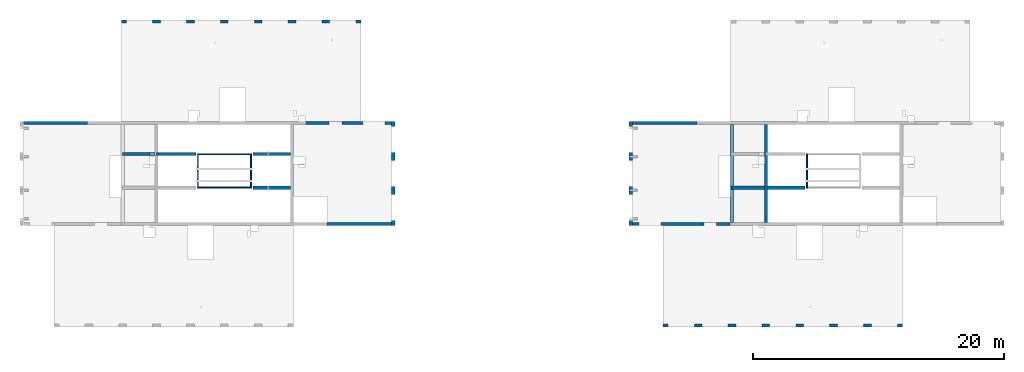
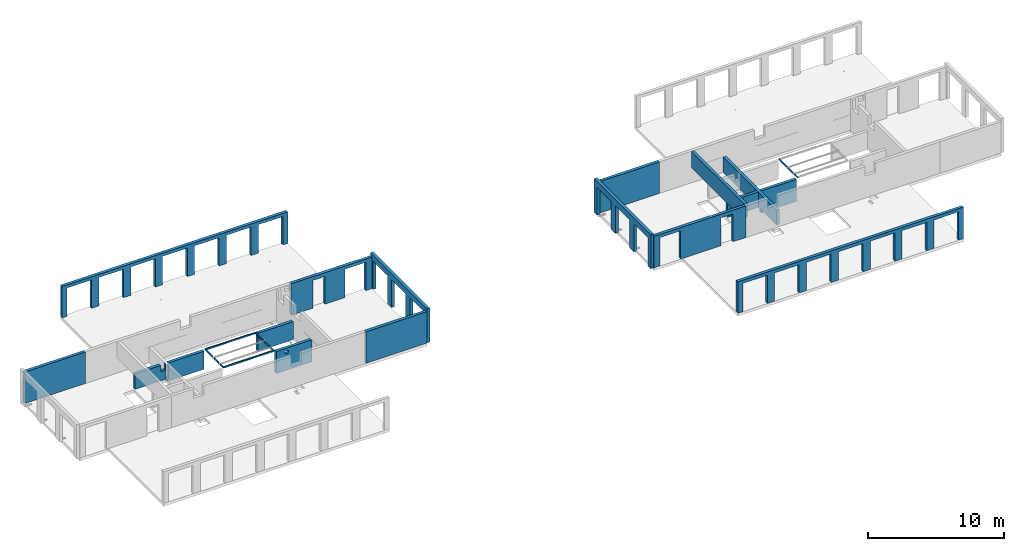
# One storey, part 4 of 6: 21 walls, 42 openings.
"""IFC2X3 building model written with IfcOpenShell, lengths in millimetres."""

from ifc_helpers import new_model, entity, si_unit, converted_unit, derived_unit, direction, frame, frame_2d, origin, origin_2d_with_axis, place, context, subcontext, project, spatial, polyline, rectangle, circle, extrude, clip, halfspace, bounded_halfspace, material, layer, layer_set, layer_usage, type_object, element, save


model = new_model("IFC2X3")

# Units and contexts
model_context = context("Model", 3, precision=0.01, world=origin(), true_north=direction((6.12303176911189e-17, 1.0)))
body_context = subcontext(model_context, "Body", "Model", "MODEL_VIEW")
ifc_project = project(units=[si_unit("LENGTHUNIT", "METRE", prefix="MILLI"), si_unit("AREAUNIT", "SQUARE_METRE"), si_unit("VOLUMEUNIT", "CUBIC_METRE"), converted_unit("PLANEANGLEUNIT", "DEGREE", entity("IfcRatioMeasure", 0.0174532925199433), si_unit("PLANEANGLEUNIT", "RADIAN"), dimensions=[0, 0, 0, 0, 0, 0, 0]), si_unit("MASSUNIT", "GRAM", prefix="KILO"), derived_unit("MASSDENSITYUNIT", [(si_unit("MASSUNIT", "GRAM", prefix="KILO"), 1), (si_unit("LENGTHUNIT", "METRE"), -3)]), si_unit("TIMEUNIT", "SECOND"), si_unit("FREQUENCYUNIT", "HERTZ"), si_unit("THERMODYNAMICTEMPERATUREUNIT", "DEGREE_CELSIUS"), derived_unit("THERMALTRANSMITTANCEUNIT", [(si_unit("MASSUNIT", "GRAM", prefix="KILO"), 1), (si_unit("THERMODYNAMICTEMPERATUREUNIT", "KELVIN"), -1), (si_unit("TIMEUNIT", "SECOND"), -3)]), derived_unit("VOLUMETRICFLOWRATEUNIT", [(si_unit("LENGTHUNIT", "METRE"), 3), (si_unit("TIMEUNIT", "SECOND"), -1)]), si_unit("ELECTRICCURRENTUNIT", "AMPERE"), si_unit("ELECTRICVOLTAGEUNIT", "VOLT"), si_unit("POWERUNIT", "WATT"), si_unit("FORCEUNIT", "NEWTON", prefix="KILO"), si_unit("ILLUMINANCEUNIT", "LUX"), si_unit("LUMINOUSFLUXUNIT", "LUMEN"), si_unit("LUMINOUSINTENSITYUNIT", "CANDELA"), derived_unit("USERDEFINED", [(si_unit("MASSUNIT", "GRAM", prefix="KILO"), -1), (si_unit("LENGTHUNIT", "METRE"), -2), (si_unit("TIMEUNIT", "SECOND"), 3), (si_unit("LUMINOUSFLUXUNIT", "LUMEN"), 1)]), derived_unit("LINEARVELOCITYUNIT", [(si_unit("LENGTHUNIT", "METRE"), 1), (si_unit("TIMEUNIT", "SECOND"), -1)]), si_unit("PRESSUREUNIT", "PASCAL"), derived_unit("USERDEFINED", [(si_unit("LENGTHUNIT", "METRE"), -2), (si_unit("MASSUNIT", "GRAM", prefix="KILO"), 1), (si_unit("TIMEUNIT", "SECOND"), -2)])], contexts=[model_context])

# Site, building, storey
site_placement = place(None, origin())
site = spatial("IfcSite", under=ifc_project, at=site_placement, Name="Default", CompositionType="ELEMENT")
building_placement = place(site_placement, origin())
building = spatial("IfcBuilding", under=site, at=building_placement, Name="niet gebruiken", CompositionType="ELEMENT")
storey_placement = place(building_placement, frame((0.0, 0.0, 66160.0)))
storey = spatial("IfcBuildingStorey", under=building, at=storey_placement, Name="22 tweeëntwintigste verdieping", CompositionType="ELEMENT", Elevation=66160.0)

# Wall, openings
ifc_material_1 = material(Name="NLRS_f2_beton ihwg")
ifc_layer_1 = layer(ifc_material_1, 250.0)
ifc_layer_set_1 = layer_set([ifc_layer_1], Name="Basic Wall:NLRS_22.21_WA_beton ihwg d=250_gen")
ifc_layer_usage_1 = layer_usage(ifc_layer_set_1, "AXIS2", "NEGATIVE", 125.0)
wall_type_1 = type_object("IfcWallType", Name="Basic Wall:NLRS_22.21_WA_beton ihwg d=250_gen", PredefinedType="STANDARD", material=ifc_layer_set_1)
wall_1_placement = place(storey_placement, frame((75770.0, 45031.0, -90.0)))
wall_1 = element("IfcWallStandardCase", 1, at=wall_1_placement, inside=storey, type_object=wall_type_1, material=ifc_layer_usage_1, Name="Basic Wall:NLRS_22.21_WA_beton ihwg d=250_gen", ObjectType="Basic Wall:NLRS_22.21_WA_beton ihwg d=250_gen", context=body_context, shape_type="SweptSolid", body=[
    extrude(rectangle(XDim=5130.0, YDim=249.999999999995, at=frame_2d((2565.0, 0.0), x_axis=(-1.0, 0.0))), origin(), (0.0, 0.0, 1.0), 2820.0),
])
opening_1_placement = place(wall_1_placement, origin())
element("IfcOpeningElement", 2, at=opening_1_placement, cuts=wall_1, Name="Basic Wall:NLRS_22.21_WA_beton ihwg d=250_gen", ObjectType="Opening", context=body_context, shape_type="SweptSolid", body=[
    extrude(rectangle(XDim=849.999999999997, YDim=900.000000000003, at=origin_2d_with_axis()), frame((13615.0, -125.0, 2395.0), z_axis=(0.0, 1.0, 0.0), x_axis=(0.0, 0.0, -1.0)), (0.0, 0.0, 1.0), 249.999999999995),
])
opening_2_placement = place(wall_1_placement, origin())
element("IfcOpeningElement", 3, at=opening_2_placement, cuts=wall_1, Name="Basic Wall:NLRS_22.21_WA_beton ihwg d=250_gen", ObjectType="Opening", context=body_context, shape_type="SweptSolid", body=[
    extrude(rectangle(XDim=400.000000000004, YDim=450.000000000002, at=frame_2d((-8.66862137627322e-12, 0.0), x_axis=(1.0, 0.0))), frame((22205.0, -125.0, 2520.0), z_axis=(0.0, 1.0, 0.0), x_axis=(0.0, 0.0, -1.0)), (0.0, 0.0, 1.0), 249.999999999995),
])

# Wall
ifc_layer_usage_2 = layer_usage(ifc_layer_set_1, "AXIS2", "NEGATIVE", 125.0)
wall_2_placement = place(storey_placement, frame((86400.0, 44906.0, -90.0), z_axis=(0.0, 0.0, 1.0), x_axis=(0.0, -1.0, 0.0)))
element("IfcWallStandardCase", 4, at=wall_2_placement, inside=storey, type_object=wall_type_1, material=ifc_layer_usage_2, Name="Basic Wall:NLRS_22.21_WA_beton ihwg d=250_gen", ObjectType="Basic Wall:NLRS_22.21_WA_beton ihwg d=250_gen", context=body_context, shape_type="SweptSolid", body=[
    extrude(rectangle(XDim=7799.99999999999, YDim=250.000000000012, at=frame_2d((3900.0, 0.0), x_axis=(-1.0, 0.0))), origin(), (0.0, 0.0, 1.0), 1370.0),
])

# Wall, openings
ifc_layer_usage_3 = layer_usage(ifc_layer_set_1, "AXIS2", "NEGATIVE", 125.0)
wall_3_placement = place(storey_placement, frame((75770.0, 36981.0, -90.0)))
wall_3 = element("IfcWallStandardCase", 5, at=wall_3_placement, inside=storey, type_object=wall_type_1, material=ifc_layer_usage_3, Name="Basic Wall:NLRS_22.21_WA_beton ihwg d=250_gen", ObjectType="Basic Wall:NLRS_22.21_WA_beton ihwg d=250_gen", context=body_context, shape_type="SweptSolid", body=[
    extrude(rectangle(XDim=7780.0, YDim=250.000000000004, at=frame_2d((3890.0, 0.0), x_axis=(-1.0, 0.0))), origin(), (0.0, 0.0, 1.0), 2820.0),
])
opening_3_placement = place(wall_3_placement, origin())
element("IfcOpeningElement", 6, at=opening_3_placement, cuts=wall_3, Name="Basic Wall:NLRS_22.21_WA_beton ihwg d=250_gen", ObjectType="Opening", context=body_context, shape_type="SweptSolid", body=[
    extrude(rectangle(XDim=2540.0, YDim=1765.0, at=frame_2d((-4.32009983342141e-12, 0.0), x_axis=(1.0, 0.0))), frame((1382.50000000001, -1649.0, 1270.0), z_axis=(0.0, 1.0, 0.0), x_axis=(0.0, 0.0, 1.0)), (0.0, 0.0, 1.0), 3048.0),
])
opening_4_placement = place(wall_3_placement, origin())
element("IfcOpeningElement", 7, at=opening_4_placement, cuts=wall_3, Name="Basic Wall:NLRS_22.21_WA_beton ihwg d=250_gen", ObjectType="Opening", context=body_context, shape_type="SweptSolid", body=[
    extrude(rectangle(XDim=2492.00000000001, YDim=1021.99999999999, at=frame_2d((8.75388650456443e-12, 8.66862137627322e-12), x_axis=(1.0, 0.0))), frame((6190.0, -1649.0, 1246.0), z_axis=(0.0, 1.0, 0.0), x_axis=(0.0, 0.0, 1.0)), (0.0, 0.0, 1.0), 3048.0),
])
opening_5_placement = place(wall_3_placement, origin())
element("IfcOpeningElement", 8, at=opening_5_placement, cuts=wall_3, Name="Basic Wall:NLRS_22.21_WA_beton ihwg d=250_gen", ObjectType="Opening", context=body_context, shape_type="SweptSolid", body=[
    extrude(rectangle(XDim=849.999999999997, YDim=900.000000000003, at=frame_2d((-8.66862137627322e-12, 0.0), x_axis=(1.0, 0.0))), frame((18310.0, -125.0, 2395.0), z_axis=(0.0, 1.0, 0.0), x_axis=(0.0, 0.0, -1.0)), (0.0, 0.0, 1.0), 250.000000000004),
])
opening_6_placement = place(wall_3_placement, origin())
element("IfcOpeningElement", 9, at=opening_6_placement, cuts=wall_3, Name="Basic Wall:NLRS_22.21_WA_beton ihwg d=250_gen", ObjectType="Opening", context=body_context, shape_type="SweptSolid", body=[
    extrude(rectangle(XDim=849.999999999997, YDim=900.000000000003, at=frame_2d((-8.66862137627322e-12, 0.0), x_axis=(1.0, 0.0))), frame((10055.0, -125.0, 2395.0), z_axis=(0.0, 1.0, 0.0), x_axis=(0.0, 0.0, -1.0)), (0.0, 0.0, 1.0), 250.000000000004),
])

# Wall
ifc_layer_usage_4 = layer_usage(ifc_layer_set_1, "AXIS2", "NEGATIVE", 125.0)
wall_4_placement = place(storey_placement, frame((83700.0, 44906.0, 1280.0), z_axis=(0.0, 0.0, 1.0), x_axis=(0.0, -1.0, 0.0)))
element("IfcWallStandardCase", 10, at=wall_4_placement, inside=storey, type_object=wall_type_1, material=ifc_layer_usage_4, Name="Basic Wall:NLRS_22.21_WA_beton ihwg d=250_gen", ObjectType="Basic Wall:NLRS_22.21_WA_beton ihwg d=250_gen", context=body_context, shape_type="Clipping", body=[
    clip(clip(extrude(rectangle(XDim=7799.99999999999, YDim=250.000000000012, at=frame_2d((3899.99999999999, 0.0), x_axis=(-1.0, 0.0))), origin(), (0.0, 0.0, 1.0), 1450.0), bounded_halfspace(frame((7800.0, 0.0, 250.0), z_axis=(0.0, 0.0, 1.0), x_axis=(0.0, 1.0, 0.0)), True, frame((7800.0, 0.0, 250.0), z_axis=(0.0, 0.0, 1.0), x_axis=(0.0, 1.0, 0.0)), polyline([(0.0, 0.0), (125.0, 0.0), (125.0, 7800.0), (0.0, 7800.0), (0.0, 0.0)]))), bounded_halfspace(frame((0.0, 0.0, 250.0), z_axis=(0.0, -1.0, 0.0), x_axis=(0.0, 0.0, 1.0)), True, frame((0.0, 0.0, 250.0), z_axis=(0.0, -1.0, 0.0), x_axis=(0.0, 0.0, 1.0)), polyline([(0.0, 0.0), (-250.0, 0.0), (-250.0, -7800.0), (0.0, -7800.0), (0.0, 0.0)]))),
])

# Wall, openings
ifc_layer_usage_5 = layer_usage(ifc_layer_set_1, "AXIS2", "NEGATIVE", 125.0)
wall_5_placement = place(storey_placement, frame((27170.0, 45031.0, -90.0)))
wall_5 = element("IfcWallStandardCase", 11, at=wall_5_placement, inside=storey, type_object=wall_type_1, material=ifc_layer_usage_5, Name="Basic Wall:NLRS_22.21_WA_beton ihwg d=250_gen", ObjectType="Basic Wall:NLRS_22.21_WA_beton ihwg d=250_gen", context=body_context, shape_type="SweptSolid", body=[
    extrude(rectangle(XDim=5130.0, YDim=249.999999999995, at=frame_2d((2565.0, 0.0), x_axis=(-1.0, 0.0))), origin(), (0.0, 0.0, 1.0), 2820.0),
])
opening_7_placement = place(wall_5_placement, origin())
element("IfcOpeningElement", 12, at=opening_7_placement, cuts=wall_5, Name="Basic Wall:NLRS_22.21_WA_beton ihwg d=250_gen", ObjectType="Opening", context=body_context, shape_type="SweptSolid", body=[
    extrude(rectangle(XDim=849.999999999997, YDim=900.000000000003, at=origin_2d_with_axis()), frame((13615.0, -125.0, 2395.0), z_axis=(0.0, 1.0, 0.0), x_axis=(0.0, 0.0, -1.0)), (0.0, 0.0, 1.0), 249.999999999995),
])
opening_8_placement = place(wall_5_placement, origin())
element("IfcOpeningElement", 13, at=opening_8_placement, cuts=wall_5, Name="Basic Wall:NLRS_22.21_WA_beton ihwg d=250_gen", ObjectType="Opening", context=body_context, shape_type="SweptSolid", body=[
    extrude(rectangle(XDim=400.000000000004, YDim=450.000000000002, at=frame_2d((-8.66862137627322e-12, 0.0), x_axis=(1.0, 0.0))), frame((22205.0, -125.0, 2520.0), z_axis=(0.0, 1.0, 0.0), x_axis=(0.0, 0.0, -1.0)), (0.0, 0.0, 1.0), 249.999999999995),
])

# Wall, opening
ifc_layer_usage_6 = layer_usage(ifc_layer_set_1, "AXIS2", "NEGATIVE", 125.0)
wall_6_placement = place(storey_placement, frame((48475.0, 39871.0, -690.0), z_axis=(0.0, 0.0, 1.0), x_axis=(-1.0, 0.0, 0.0)))
wall_6 = element("IfcWallStandardCase", 14, at=wall_6_placement, inside=storey, type_object=wall_type_1, material=ifc_layer_usage_6, Name="Basic Wall:NLRS_22.21_WA_beton ihwg d=250_gen", ObjectType="Basic Wall:NLRS_22.21_WA_beton ihwg d=250_gen", context=body_context, shape_type="SweptSolid", body=[
    extrude(rectangle(XDim=3000.0, YDim=249.999999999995, at=frame_2d((1500.0, -1.4210854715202e-13), x_axis=(-1.0, 0.0))), origin(), (0.0, 0.0, 1.0), 1969.99999999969),
])
opening_9_placement = place(wall_6_placement, origin())
element("IfcOpeningElement", 15, at=opening_9_placement, cuts=wall_6, Name="Basic Wall:NLRS_22.21_WA_beton ihwg d=250_gen", ObjectType="Opening", context=body_context, shape_type="SweptSolid", body=[
    extrude(circle(Radius=157.5, at=origin_2d_with_axis()), frame((2114.9997298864, -125.0, 1620.0), z_axis=(0.0, 1.0, 0.0), x_axis=(-1.0, 0.0, 0.0)), (0.0, 0.0, 1.0), 250.000000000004),
])

# Wall
ifc_layer_usage_7 = layer_usage(ifc_layer_set_1, "AXIS2", "NEGATIVE", 125.0)
wall_7_placement = place(storey_placement, frame((48475.0, 42571.0, -340.0), z_axis=(0.0, 0.0, 1.0), x_axis=(-1.0, 0.0, 0.0)))
element("IfcWallStandardCase", 16, at=wall_7_placement, inside=storey, type_object=wall_type_1, material=ifc_layer_usage_7, Name="Basic Wall:NLRS_22.21_WA_beton ihwg d=250_gen", ObjectType="Basic Wall:NLRS_22.21_WA_beton ihwg d=250_gen", context=body_context, shape_type="Clipping", body=[
    clip(extrude(rectangle(XDim=3000.0, YDim=249.999999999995, at=frame_2d((1500.0, -3.48165940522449e-13), x_axis=(-1.0, 0.0))), origin(), (0.0, 0.0, 1.0), 1620.00000000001), halfspace(frame((0.0, -125.0, 1620.0), z_axis=(0.0, 0.0, 1.0), x_axis=(0.0, 1.0, 0.0)), False)),
])

# Wall, openings
ifc_layer_usage_8 = layer_usage(ifc_layer_set_1, "AXIS2", "NEGATIVE", 125.0)
wall_8_placement = place(storey_placement, frame((40925.0, 42571.0, -340.0), z_axis=(0.0, 0.0, 1.0), x_axis=(-1.0, 0.0, 0.0)))
wall_8 = element("IfcWallStandardCase", 17, at=wall_8_placement, inside=storey, type_object=wall_type_1, material=ifc_layer_usage_8, Name="Basic Wall:NLRS_22.21_WA_beton ihwg d=250_gen", ObjectType="Basic Wall:NLRS_22.21_WA_beton ihwg d=250_gen", context=body_context, shape_type="SweptSolid", body=[
    extrude(rectangle(XDim=5849.99999999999, YDim=249.999999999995, at=frame_2d((2924.99999999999, 0.0), x_axis=(-1.0, 0.0))), origin(), (0.0, 0.0, 1.0), 1620.00000000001),
])
opening_10_placement = place(storey_placement, frame((40925.0, 42571.0, -340.0), z_axis=(0.0, 0.0, 1.0), x_axis=(-1.0, 0.0, 0.0)))
element("IfcOpeningElement", 18, at=opening_10_placement, cuts=wall_8, Name="Basic Wall:NLRS_22.21_WA_beton ihwg d=250_gen:1", ObjectType="Opening", context=body_context, shape_type="SweptSolid", body=[
    extrude(rectangle(XDim=1370.0, YDim=250.000000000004, at=frame_2d((0.0, 4.33431068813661e-12), x_axis=(1.0, 0.0))), frame((3250.0, 0.0, 935.0), z_axis=(-1.0, 0.0, 0.0), x_axis=(0.0, 0.0, 1.0)), (0.0, 0.0, 1.0), 249.999999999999),
])
opening_11_placement = place(wall_8_placement, origin())
element("IfcOpeningElement", 19, at=opening_11_placement, cuts=wall_8, Name="Basic Wall:NLRS_22.21_WA_beton ihwg d=250_gen", ObjectType="Opening", context=body_context, shape_type="SweptSolid", body=[
    extrude(rectangle(XDim=549.999999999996, YDim=400.0, at=origin_2d_with_axis()), frame((3475.0, -125.0, 1345.0), z_axis=(0.0, 1.0, 0.0), x_axis=(0.0, 0.0, -1.0)), (0.0, 0.0, 1.0), 249.999999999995),
])
opening_12_placement = place(wall_8_placement, origin())
element("IfcOpeningElement", 20, at=opening_12_placement, cuts=wall_8, Name="Basic Wall:NLRS_22.21_WA_beton ihwg d=250_gen", ObjectType="Opening", context=body_context, shape_type="SweptSolid", body=[
    extrude(rectangle(XDim=250.000000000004, YDim=2725.0, at=frame_2d((0.0, 4.33431068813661e-12), x_axis=(0.0, 1.0))), frame((4487.49999999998, 125.0, 125.0), z_axis=(0.0, -1.0, 0.0), x_axis=(1.0, 0.0, 0.0)), (0.0, 0.0, 1.0), 250.0),
])

# Wall
ifc_layer_usage_9 = layer_usage(ifc_layer_set_1, "AXIS2", "NEGATIVE", 125.0)
wall_9_placement = place(storey_placement, frame((89525.0, 39871.0, -690.0), z_axis=(0.0, 0.0, 1.0), x_axis=(-1.0, 0.0, 0.0)))
element("IfcWallStandardCase", 21, at=wall_9_placement, inside=storey, type_object=wall_type_1, material=ifc_layer_usage_9, Name="Basic Wall:NLRS_22.21_WA_beton ihwg d=250_gen", ObjectType="Basic Wall:NLRS_22.21_WA_beton ihwg d=250_gen", context=body_context, shape_type="SweptSolid", body=[
    extrude(rectangle(XDim=2999.99999999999, YDim=249.999999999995, at=frame_2d((1500.0, 0.0), x_axis=(-1.0, 0.0))), origin(), (0.0, 0.0, 1.0), 1969.99999999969),
])

# Wall, openings
ifc_layer_usage_10 = layer_usage(ifc_layer_set_1, "AXIS2", "NEGATIVE", 125.0)
wall_10_placement = place(storey_placement, frame((49725.0, 45031.0, -90.0)))
wall_10 = element("IfcWallStandardCase", 22, at=wall_10_placement, inside=storey, type_object=wall_type_1, material=ifc_layer_usage_10, Name="Basic Wall:NLRS_22.21_WA_beton ihwg d=250_gen", ObjectType="Basic Wall:NLRS_22.21_WA_beton ihwg d=250_gen", context=body_context, shape_type="SweptSolid", body=[
    extrude(rectangle(XDim=6824.99999999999, YDim=249.999999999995, at=frame_2d((3412.5, 0.0), x_axis=(-1.0, 0.0))), origin(), (0.0, 0.0, 1.0), 2820.0),
])
opening_13_placement = place(wall_10_placement, origin())
element("IfcOpeningElement", 23, at=opening_13_placement, cuts=wall_10, Name="Basic Wall:NLRS_22.21_WA_beton ihwg d=250_gen", ObjectType="Opening", context=body_context, shape_type="SweptSolid", body=[
    extrude(rectangle(XDim=2540.0, YDim=1765.0, at=frame_2d((-4.32009983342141e-12, 0.0), x_axis=(1.0, 0.0))), frame((5422.50000000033, -1649.0, 1270.0), z_axis=(0.0, 1.0, 0.0), x_axis=(0.0, 0.0, 1.0)), (0.0, 0.0, 1.0), 3048.0),
])
opening_14_placement = place(wall_10_placement, origin())
element("IfcOpeningElement", 24, at=opening_14_placement, cuts=wall_10, Name="Basic Wall:NLRS_22.21_WA_beton ihwg d=250_gen", ObjectType="Opening", context=body_context, shape_type="SweptSolid", body=[
    extrude(rectangle(XDim=2492.00000000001, YDim=1022.0, at=frame_2d((8.75388650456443e-12, 4.32009983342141e-12), x_axis=(1.0, 0.0))), frame((2335.0, -1649.0, 1246.0), z_axis=(0.0, 1.0, 0.0), x_axis=(0.0, 0.0, 1.0)), (0.0, 0.0, 1.0), 3048.0),
])

# Walls
ifc_layer_usage_11 = layer_usage(ifc_layer_set_1, "AXIS2", "NEGATIVE", 125.0)
wall_11_placement = place(storey_placement, frame((51400.0, 36981.0, -90.0)))
element("IfcWallStandardCase", 25, at=wall_11_placement, inside=storey, type_object=wall_type_1, material=ifc_layer_usage_11, Name="Basic Wall:NLRS_22.21_WA_beton ihwg d=250_gen", ObjectType="Basic Wall:NLRS_22.21_WA_beton ihwg d=250_gen", context=body_context, shape_type="SweptSolid", body=[
    extrude(rectangle(XDim=5150.0, YDim=250.000000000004, at=frame_2d((2575.0, 0.0), x_axis=(-1.0, 0.0))), origin(), (0.0, 0.0, 1.0), 2820.0),
])
ifc_layer_usage_12 = layer_usage(ifc_layer_set_1, "AXIS2", "NEGATIVE", 125.0)
wall_12_placement = place(storey_placement, frame((86275.0, 39871.0, -90.0), z_axis=(0.0, 0.0, 1.0), x_axis=(-1.0, 0.0, 0.0)))
element("IfcWallStandardCase", 26, at=wall_12_placement, inside=storey, type_object=wall_type_1, material=ifc_layer_usage_12, Name="Basic Wall:NLRS_22.21_WA_beton ihwg d=250_gen", ObjectType="Basic Wall:NLRS_22.21_WA_beton ihwg d=250_gen", context=body_context, shape_type="SweptSolid", body=[
    extrude(rectangle(XDim=2600.0, YDim=249.999999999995, at=frame_2d((1300.0, 0.0), x_axis=(-1.0, 0.0))), origin(), (0.0, 0.0, 1.0), 1370.0),
])

# Wall, openings
ifc_material_2 = material(Name="NLRS_f2_beton prefab")
ifc_layer_2 = layer(ifc_material_2, 250.0)
ifc_layer_set_2 = layer_set([ifc_layer_2], Name="Basic Wall:NLRS_21.21_WA_beton prefab d=250_gen")
ifc_layer_usage_13 = layer_usage(ifc_layer_set_2, "AXIS2", "POSITIVE", -125.0)
wall_type_2 = type_object("IfcWallType", Name="Basic Wall:NLRS_21.21_WA_beton prefab d=250_gen", PredefinedType="STANDARD", material=ifc_layer_set_2)
wall_13_placement = place(storey_placement, frame((56675.0, 45156.0, -70.0), z_axis=(0.0, 0.0, 1.0), x_axis=(0.0, -1.0, 0.0)))
wall_13 = element("IfcWallStandardCase", 27, at=wall_13_placement, inside=storey, type_object=wall_type_2, material=ifc_layer_usage_13, Name="Basic Wall:NLRS_21.21_WA_beton prefab d=250_gen", ObjectType="Basic Wall:NLRS_21.21_WA_beton prefab d=250_gen", context=body_context, shape_type="SweptSolid", body=[
    extrude(rectangle(XDim=8300.00000000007, YDim=249.999999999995, at=frame_2d((4150.00000000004, 0.0), x_axis=(-1.0, 0.0))), origin(), (0.0, 0.0, 1.0), 3050.0),
])
opening_15_placement = place(wall_13_placement, origin())
element("IfcOpeningElement", 28, at=opening_15_placement, cuts=wall_13, Name="Basic Wall:NLRS_21.21_WA_beton prefab d=250_gen", ObjectType="Opening", context=body_context, shape_type="SweptSolid", body=[
    extrude(rectangle(XDim=2540.0, YDim=2080.0, at=frame_2d((0.0, 4.32009983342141e-12), x_axis=(0.0, 1.0))), frame((6850.0, -1649.0, 1250.0), z_axis=(0.0, 1.0, 0.0), x_axis=(-1.0, 0.0, 0.0)), (0.0, 0.0, 1.0), 3048.0),
])
opening_16_placement = place(wall_13_placement, origin())
element("IfcOpeningElement", 29, at=opening_16_placement, cuts=wall_13, Name="Basic Wall:NLRS_21.21_WA_beton prefab d=250_gen", ObjectType="Opening", context=body_context, shape_type="SweptSolid", body=[
    extrude(rectangle(XDim=2540.0, YDim=2080.0, at=frame_2d((0.0, 4.32009983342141e-12), x_axis=(0.0, 1.0))), frame((4150.0, -1649.0, 1250.0), z_axis=(0.0, 1.0, 0.0), x_axis=(-1.0, 0.0, 0.0)), (0.0, 0.0, 1.0), 3048.0),
])
opening_17_placement = place(wall_13_placement, origin())
element("IfcOpeningElement", 30, at=opening_17_placement, cuts=wall_13, Name="Basic Wall:NLRS_21.21_WA_beton prefab d=250_gen", ObjectType="Opening", context=body_context, shape_type="SweptSolid", body=[
    extrude(rectangle(XDim=2540.0, YDim=2080.0, at=frame_2d((0.0, 4.32009983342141e-12), x_axis=(0.0, 1.0))), frame((1450.0, -1649.0, 1250.0), z_axis=(0.0, 1.0, 0.0), x_axis=(-1.0, 0.0, 0.0)), (0.0, 0.0, 1.0), 3048.0),
])

ifc_layer_usage_14 = layer_usage(ifc_layer_set_2, "AXIS2", "NEGATIVE", 125.0)
wall_14_placement = place(storey_placement, frame((75625.0, 45156.0, -70.0), z_axis=(0.0, 0.0, 1.0), x_axis=(0.0, -1.0, 0.0)))
wall_14 = element("IfcWallStandardCase", 31, at=wall_14_placement, inside=storey, type_object=wall_type_2, material=ifc_layer_usage_14, Name="Basic Wall:NLRS_21.21_WA_beton prefab d=250_gen", ObjectType="Basic Wall:NLRS_21.21_WA_beton prefab d=250_gen", context=body_context, shape_type="SweptSolid", body=[
    extrude(rectangle(XDim=8300.0, YDim=249.999999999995, at=frame_2d((4150.0, 0.0), x_axis=(-1.0, 0.0))), origin(), (0.0, 0.0, 1.0), 3050.0),
])
opening_18_placement = place(wall_14_placement, origin())
element("IfcOpeningElement", 32, at=opening_18_placement, cuts=wall_14, Name="Basic Wall:NLRS_21.21_WA_beton prefab d=250_gen", ObjectType="Opening", context=body_context, shape_type="SweptSolid", body=[
    extrude(rectangle(XDim=2520.0, YDim=2080.0, at=frame_2d((0.0, 0.0), x_axis=(0.0, 1.0))), frame((6850.0, -1399.0, 1260.0), z_axis=(0.0, 1.0, 0.0), x_axis=(-1.0, 0.0, 0.0)), (0.0, 0.0, 1.0), 3048.0),
])
opening_19_placement = place(wall_14_placement, origin())
element("IfcOpeningElement", 33, at=opening_19_placement, cuts=wall_14, Name="Basic Wall:NLRS_21.21_WA_beton prefab d=250_gen", ObjectType="Opening", context=body_context, shape_type="SweptSolid", body=[
    extrude(rectangle(XDim=2520.0, YDim=2080.0, at=frame_2d((0.0, 0.0), x_axis=(0.0, 1.0))), frame((4150.0, -1399.0, 1260.0), z_axis=(0.0, 1.0, 0.0), x_axis=(-1.0, 0.0, 0.0)), (0.0, 0.0, 1.0), 3048.0),
])
opening_20_placement = place(wall_14_placement, origin())
element("IfcOpeningElement", 34, at=opening_20_placement, cuts=wall_14, Name="Basic Wall:NLRS_21.21_WA_beton prefab d=250_gen", ObjectType="Opening", context=body_context, shape_type="SweptSolid", body=[
    extrude(rectangle(XDim=2520.0, YDim=2080.0, at=frame_2d((0.0, 0.0), x_axis=(0.0, 1.0))), frame((1450.0, -1399.0, 1260.0), z_axis=(0.0, 1.0, 0.0), x_axis=(-1.0, 0.0, 0.0)), (0.0, 0.0, 1.0), 3048.0),
])

ifc_layer_3 = layer(ifc_material_1, 250.0)
ifc_layer_set_3 = layer_set([ifc_layer_3], Name="Basic Wall:NLRS_21.21_WA_beton ihwg d=250_gen")
ifc_layer_usage_15 = layer_usage(ifc_layer_set_3, "AXIS2", "NEGATIVE", 125.0)
wall_type_3 = type_object("IfcWallType", Name="Basic Wall:NLRS_21.21_WA_beton ihwg d=250_gen", PredefinedType="STANDARD", material=ifc_layer_set_3)
wall_15_placement = place(storey_placement, frame((54100.0, 53131.0, -90.0), z_axis=(0.0, 0.0, 1.0), x_axis=(-1.0, 0.0, 0.0)))
wall_15 = element("IfcWallStandardCase", 35, at=wall_15_placement, inside=storey, type_object=wall_type_3, material=ifc_layer_usage_15, Name="Basic Wall:NLRS_21.21_WA_beton ihwg d=250_gen", ObjectType="Basic Wall:NLRS_21.21_WA_beton ihwg d=250_gen", context=body_context, shape_type="SweptSolid", body=[
    extrude(rectangle(XDim=19100.0, YDim=249.999999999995, at=frame_2d((9549.99999999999, 7.105427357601e-13), x_axis=(-1.0, 0.0))), origin(), (0.0, 0.0, 1.0), 2820.0),
])
opening_21_placement = place(wall_15_placement, origin())
element("IfcOpeningElement", 36, at=opening_21_placement, cuts=wall_15, Name="Basic Wall:NLRS_21.21_WA_beton ihwg d=250_gen", ObjectType="Opening", context=body_context, shape_type="SweptSolid", body=[
    extrude(rectangle(XDim=2540.0, YDim=2080.0, at=frame_2d((2.1600499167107e-12, 4.32009983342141e-12), x_axis=(0.0, 1.0))), frame((17650.0, -1399.0, 1270.0), z_axis=(0.0, 1.0, 0.0), x_axis=(-1.0, 0.0, 0.0)), (0.0, 0.0, 1.0), 3048.0),
])
opening_22_placement = place(wall_15_placement, origin())
element("IfcOpeningElement", 37, at=opening_22_placement, cuts=wall_15, Name="Basic Wall:NLRS_21.21_WA_beton ihwg d=250_gen", ObjectType="Opening", context=body_context, shape_type="SweptSolid", body=[
    extrude(rectangle(XDim=2540.0, YDim=2079.99999999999, at=frame_2d((2.1600499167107e-12, 4.32009983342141e-12), x_axis=(0.0, 1.0))), frame((14950.0, -1399.0, 1270.0), z_axis=(0.0, 1.0, 0.0), x_axis=(-1.0, 0.0, 0.0)), (0.0, 0.0, 1.0), 3048.0),
])
opening_23_placement = place(wall_15_placement, origin())
element("IfcOpeningElement", 38, at=opening_23_placement, cuts=wall_15, Name="Basic Wall:NLRS_21.21_WA_beton ihwg d=250_gen", ObjectType="Opening", context=body_context, shape_type="SweptSolid", body=[
    extrude(rectangle(XDim=2540.0, YDim=2080.0, at=frame_2d((0.0, 4.32009983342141e-12), x_axis=(0.0, 1.0))), frame((12250.0, -1399.0, 1270.0), z_axis=(0.0, 1.0, 0.0), x_axis=(-1.0, 0.0, 0.0)), (0.0, 0.0, 1.0), 3048.0),
])
opening_24_placement = place(wall_15_placement, origin())
element("IfcOpeningElement", 39, at=opening_24_placement, cuts=wall_15, Name="Basic Wall:NLRS_21.21_WA_beton ihwg d=250_gen", ObjectType="Opening", context=body_context, shape_type="SweptSolid", body=[
    extrude(rectangle(XDim=2540.0, YDim=2080.0, at=frame_2d((0.0, 4.32009983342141e-12), x_axis=(0.0, 1.0))), frame((9550.0, -1399.0, 1270.0), z_axis=(0.0, 1.0, 0.0), x_axis=(-1.0, 0.0, 0.0)), (0.0, 0.0, 1.0), 3048.0),
])
opening_25_placement = place(wall_15_placement, origin())
element("IfcOpeningElement", 40, at=opening_25_placement, cuts=wall_15, Name="Basic Wall:NLRS_21.21_WA_beton ihwg d=250_gen", ObjectType="Opening", context=body_context, shape_type="SweptSolid", body=[
    extrude(rectangle(XDim=2540.0, YDim=2080.0, at=frame_2d((0.0, 4.32009983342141e-12), x_axis=(0.0, 1.0))), frame((6850.0, -1399.0, 1270.0), z_axis=(0.0, 1.0, 0.0), x_axis=(-1.0, 0.0, 0.0)), (0.0, 0.0, 1.0), 3048.0),
])
opening_26_placement = place(wall_15_placement, origin())
element("IfcOpeningElement", 41, at=opening_26_placement, cuts=wall_15, Name="Basic Wall:NLRS_21.21_WA_beton ihwg d=250_gen", ObjectType="Opening", context=body_context, shape_type="SweptSolid", body=[
    extrude(rectangle(XDim=2540.0, YDim=2080.0, at=frame_2d((0.0, 4.32009983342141e-12), x_axis=(0.0, 1.0))), frame((4150.0, -1399.0, 1270.0), z_axis=(0.0, 1.0, 0.0), x_axis=(-1.0, 0.0, 0.0)), (0.0, 0.0, 1.0), 3048.0),
])
opening_27_placement = place(wall_15_placement, origin())
element("IfcOpeningElement", 42, at=opening_27_placement, cuts=wall_15, Name="Basic Wall:NLRS_21.21_WA_beton ihwg d=250_gen", ObjectType="Opening", context=body_context, shape_type="SweptSolid", body=[
    extrude(rectangle(XDim=2540.0, YDim=2080.0, at=frame_2d((0.0, 4.32009983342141e-12), x_axis=(0.0, 1.0))), frame((1450.0, -1399.0, 1270.0), z_axis=(0.0, 1.0, 0.0), x_axis=(-1.0, 0.0, 0.0)), (0.0, 0.0, 1.0), 3048.0),
])

ifc_layer_usage_16 = layer_usage(ifc_layer_set_3, "AXIS2", "NEGATIVE", 125.0)
wall_16_placement = place(storey_placement, frame((78200.0, 28881.0, -90.0)))
wall_16 = element("IfcWallStandardCase", 43, at=wall_16_placement, inside=storey, type_object=wall_type_3, material=ifc_layer_usage_16, Name="Basic Wall:NLRS_21.21_WA_beton ihwg d=250_gen", ObjectType="Basic Wall:NLRS_21.21_WA_beton ihwg d=250_gen", context=body_context, shape_type="SweptSolid", body=[
    extrude(rectangle(XDim=19099.9999999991, YDim=250.000000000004, at=frame_2d((9549.99999999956, 0.0), x_axis=(-1.0, 0.0))), origin(), (0.0, 0.0, 1.0), 2820.0),
])
opening_28_placement = place(wall_16_placement, origin())
element("IfcOpeningElement", 44, at=opening_28_placement, cuts=wall_16, Name="Basic Wall:NLRS_21.21_WA_beton ihwg d=250_gen", ObjectType="Opening", context=body_context, shape_type="SweptSolid", body=[
    extrude(rectangle(XDim=2540.0, YDim=2080.0, at=frame_2d((-8.64019966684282e-12, 4.32009983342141e-12), x_axis=(0.0, 1.0))), frame((17650.0, -1399.0, 1270.0), z_axis=(0.0, 1.0, 0.0), x_axis=(-1.0, 0.0, 0.0)), (0.0, 0.0, 1.0), 3048.0),
])
opening_29_placement = place(wall_16_placement, origin())
element("IfcOpeningElement", 45, at=opening_29_placement, cuts=wall_16, Name="Basic Wall:NLRS_21.21_WA_beton ihwg d=250_gen", ObjectType="Opening", context=body_context, shape_type="SweptSolid", body=[
    extrude(rectangle(XDim=2540.0, YDim=2080.0, at=frame_2d((-8.64019966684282e-12, 4.32009983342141e-12), x_axis=(0.0, 1.0))), frame((14950.0, -1399.0, 1270.0), z_axis=(0.0, 1.0, 0.0), x_axis=(-1.0, 0.0, 0.0)), (0.0, 0.0, 1.0), 3048.0),
])
opening_30_placement = place(wall_16_placement, origin())
element("IfcOpeningElement", 46, at=opening_30_placement, cuts=wall_16, Name="Basic Wall:NLRS_21.21_WA_beton ihwg d=250_gen", ObjectType="Opening", context=body_context, shape_type="SweptSolid", body=[
    extrude(rectangle(XDim=2540.0, YDim=2080.0, at=frame_2d((8.64019966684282e-12, 4.32009983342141e-12), x_axis=(0.0, 1.0))), frame((12250.0, -1399.0, 1270.0), z_axis=(0.0, 1.0, 0.0), x_axis=(-1.0, 0.0, 0.0)), (0.0, 0.0, 1.0), 3048.0),
])
opening_31_placement = place(wall_16_placement, origin())
element("IfcOpeningElement", 47, at=opening_31_placement, cuts=wall_16, Name="Basic Wall:NLRS_21.21_WA_beton ihwg d=250_gen", ObjectType="Opening", context=body_context, shape_type="SweptSolid", body=[
    extrude(rectangle(XDim=2540.0, YDim=2080.0, at=frame_2d((-8.64019966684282e-12, 4.32009983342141e-12), x_axis=(0.0, 1.0))), frame((9550.0, -1399.0, 1270.0), z_axis=(0.0, 1.0, 0.0), x_axis=(-1.0, 0.0, 0.0)), (0.0, 0.0, 1.0), 3048.0),
])
opening_32_placement = place(wall_16_placement, origin())
element("IfcOpeningElement", 48, at=opening_32_placement, cuts=wall_16, Name="Basic Wall:NLRS_21.21_WA_beton ihwg d=250_gen", ObjectType="Opening", context=body_context, shape_type="SweptSolid", body=[
    extrude(rectangle(XDim=2540.0, YDim=2080.0, at=frame_2d((-8.64019966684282e-12, 4.32009983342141e-12), x_axis=(0.0, 1.0))), frame((6850.0, -1399.0, 1270.0), z_axis=(0.0, 1.0, 0.0), x_axis=(-1.0, 0.0, 0.0)), (0.0, 0.0, 1.0), 3048.0),
])
opening_33_placement = place(wall_16_placement, origin())
element("IfcOpeningElement", 49, at=opening_33_placement, cuts=wall_16, Name="Basic Wall:NLRS_21.21_WA_beton ihwg d=250_gen", ObjectType="Opening", context=body_context, shape_type="SweptSolid", body=[
    extrude(rectangle(XDim=2540.0, YDim=2080.0, at=frame_2d((8.64019966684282e-12, 4.32009983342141e-12), x_axis=(0.0, 1.0))), frame((4150.0, -1399.0, 1270.0), z_axis=(0.0, 1.0, 0.0), x_axis=(-1.0, 0.0, 0.0)), (0.0, 0.0, 1.0), 3048.0),
])
opening_34_placement = place(wall_16_placement, origin())
element("IfcOpeningElement", 50, at=opening_34_placement, cuts=wall_16, Name="Basic Wall:NLRS_21.21_WA_beton ihwg d=250_gen", ObjectType="Opening", context=body_context, shape_type="SweptSolid", body=[
    extrude(rectangle(XDim=2540.0, YDim=2080.0, at=frame_2d((8.64019966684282e-12, 4.32009983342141e-12), x_axis=(0.0, 1.0))), frame((1450.0, -1399.0, 1270.0), z_axis=(0.0, 1.0, 0.0), x_axis=(-1.0, 0.0, 0.0)), (0.0, 0.0, 1.0), 3048.0),
])

ifc_layer_4 = layer(ifc_material_2, 100.0)
ifc_layer_set_4 = layer_set([ifc_layer_4], Name="Basic Wall:NLRS_22.21_WA_beton prefab d=100_gen")
ifc_layer_usage_17 = layer_usage(ifc_layer_set_4, "AXIS2", "POSITIVE", -50.0)
wall_type_4 = type_object("IfcWallType", Name="Basic Wall:NLRS_22.21_WA_beton prefab d=100_gen", PredefinedType="STANDARD", material=ifc_layer_set_4)
wall_17_placement = place(storey_placement, frame((41075.0, 42596.0, 1280.0), z_axis=(0.0, 0.0, 1.0), x_axis=(0.0, -1.0, 0.0)))
wall_17 = element("IfcWallStandardCase", 51, at=wall_17_placement, inside=storey, type_object=wall_type_4, material=ifc_layer_usage_17, Name="Basic Wall:NLRS_22.21_WA_beton prefab d=100_gen", ObjectType="Basic Wall:NLRS_22.21_WA_beton prefab d=100_gen", context=body_context, shape_type="SweptSolid", body=[
    extrude(rectangle(XDim=2750.00000000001, YDim=99.9999999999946, at=frame_2d((1375.0, 0.0), x_axis=(-1.0, 0.0))), origin(), (0.0, 0.0, 1.0), 79.9999999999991),
])
opening_35_placement = place(wall_17_placement, origin())
element("IfcOpeningElement", 52, at=opening_35_placement, cuts=wall_17, Name="Basic Wall:NLRS_22.21_WA_beton prefab d=100_gen", ObjectType="Opening", context=body_context, shape_type="SweptSolid", body=[
    extrude(rectangle(XDim=140.000000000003, YDim=200.000000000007, at=frame_2d((0.0, 0.0), x_axis=(0.0, 1.0))), frame((2183.0, -1474.0, 30.0), z_axis=(0.0, 1.0, 0.0), x_axis=(-1.0, 0.0, 0.0)), (0.0, 0.0, 1.0), 3048.0),
])
opening_36_placement = place(wall_17_placement, origin())
element("IfcOpeningElement", 53, at=opening_36_placement, cuts=wall_17, Name="Basic Wall:NLRS_22.21_WA_beton prefab d=100_gen", ObjectType="Opening", context=body_context, shape_type="SweptSolid", body=[
    extrude(rectangle(XDim=140.000000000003, YDim=199.999999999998, at=frame_2d((4.33431068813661e-12, 0.0), x_axis=(0.0, 1.0))), frame((1233.0, -1474.0, 30.0), z_axis=(0.0, 1.0, 0.0), x_axis=(-1.0, 0.0, 0.0)), (0.0, 0.0, 1.0), 3048.0),
])

ifc_layer_usage_18 = layer_usage(ifc_layer_set_4, "AXIS2", "NEGATIVE", 50.0)
wall_18_placement = place(storey_placement, frame((45325.0, 42596.0, 1280.0), z_axis=(0.0, 0.0, 1.0), x_axis=(0.0, -1.0, 0.0)))
wall_18 = element("IfcWallStandardCase", 54, at=wall_18_placement, inside=storey, type_object=wall_type_4, material=ifc_layer_usage_18, Name="Basic Wall:NLRS_22.21_WA_beton prefab d=100_gen", ObjectType="Basic Wall:NLRS_22.21_WA_beton prefab d=100_gen", context=body_context, shape_type="SweptSolid", body=[
    extrude(rectangle(XDim=2750.00000000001, YDim=99.9999999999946, at=frame_2d((1375.0, 0.0), x_axis=(-1.0, 0.0))), origin(), (0.0, 0.0, 1.0), 79.9999999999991),
])
opening_37_placement = place(wall_18_placement, origin())
element("IfcOpeningElement", 55, at=opening_37_placement, cuts=wall_18, Name="Basic Wall:NLRS_22.21_WA_beton prefab d=100_gen", ObjectType="Opening", context=body_context, shape_type="SweptSolid", body=[
    extrude(rectangle(XDim=140.000000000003, YDim=200.000000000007, at=frame_2d((0.0, 0.0), x_axis=(0.0, 1.0))), frame((2183.0, -1374.0, 30.0), z_axis=(0.0, 1.0, 0.0), x_axis=(-1.0, 0.0, 0.0)), (0.0, 0.0, 1.0), 3048.0),
])
opening_38_placement = place(wall_18_placement, origin())
element("IfcOpeningElement", 56, at=opening_38_placement, cuts=wall_18, Name="Basic Wall:NLRS_22.21_WA_beton prefab d=100_gen", ObjectType="Opening", context=body_context, shape_type="SweptSolid", body=[
    extrude(rectangle(XDim=140.000000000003, YDim=199.999999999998, at=frame_2d((4.33431068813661e-12, 0.0), x_axis=(0.0, 1.0))), frame((1233.0, -1374.0, 30.0), z_axis=(0.0, 1.0, 0.0), x_axis=(-1.0, 0.0, 0.0)), (0.0, 0.0, 1.0), 3048.0),
])

# Walls
ifc_layer_usage_19 = layer_usage(ifc_layer_set_4, "AXIS2", "NEGATIVE", 50.0)
wall_19_placement = place(storey_placement, frame((41125.0, 42546.0, 1280.0)))
element("IfcWallStandardCase", 57, at=wall_19_placement, inside=storey, type_object=wall_type_4, material=ifc_layer_usage_19, Name="Basic Wall:NLRS_22.21_WA_beton prefab d=100_gen", ObjectType="Basic Wall:NLRS_22.21_WA_beton prefab d=100_gen", context=body_context, shape_type="SweptSolid", body=[
    extrude(rectangle(XDim=4149.99999999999, YDim=99.9999999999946, at=frame_2d((2075.0, 0.0), x_axis=(-1.0, 0.0))), origin(), (0.0, 0.0, 1.0), 79.9999999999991),
])
ifc_layer_usage_20 = layer_usage(ifc_layer_set_4, "AXIS2", "POSITIVE", -50.0)
wall_20_placement = place(storey_placement, frame((41125.0, 39896.0, 1280.0)))
element("IfcWallStandardCase", 58, at=wall_20_placement, inside=storey, type_object=wall_type_4, material=ifc_layer_usage_20, Name="Basic Wall:NLRS_22.21_WA_beton prefab d=100_gen", ObjectType="Basic Wall:NLRS_22.21_WA_beton prefab d=100_gen", context=body_context, shape_type="SweptSolid", body=[
    extrude(rectangle(XDim=4149.99999999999, YDim=99.9999999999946, at=frame_2d((2075.0, 0.0), x_axis=(-1.0, 0.0))), origin(), (0.0, 0.0, 1.0), 79.9999999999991),
])

# Wall, openings
ifc_layer_usage_21 = layer_usage(ifc_layer_set_4, "AXIS2", "POSITIVE", -50.0)
wall_21_placement = place(storey_placement, frame((89675.0, 42596.0, 1280.0), z_axis=(0.0, 0.0, 1.0), x_axis=(0.0, -1.0, 0.0)))
wall_21 = element("IfcWallStandardCase", 59, at=wall_21_placement, inside=storey, type_object=wall_type_4, material=ifc_layer_usage_21, Name="Basic Wall:NLRS_22.21_WA_beton prefab d=100_gen", ObjectType="Basic Wall:NLRS_22.21_WA_beton prefab d=100_gen", context=body_context, shape_type="SweptSolid", body=[
    extrude(rectangle(XDim=2750.00000000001, YDim=100.000000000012, at=frame_2d((1375.0, 0.0), x_axis=(-1.0, 0.0))), origin(), (0.0, 0.0, 1.0), 79.9999999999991),
])
opening_39_placement = place(wall_21_placement, origin())
element("IfcOpeningElement", 60, at=opening_39_placement, cuts=wall_21, Name="Basic Wall:NLRS_22.21_WA_beton prefab d=100_gen", ObjectType="Opening", context=body_context, shape_type="SweptSolid", body=[
    extrude(rectangle(XDim=140.000000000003, YDim=199.999999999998, at=frame_2d((4.33431068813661e-12, 0.0), x_axis=(0.0, 1.0))), frame((2183.0, -1474.0, 30.0), z_axis=(0.0, 1.0, 0.0), x_axis=(-1.0, 0.0, 0.0)), (0.0, 0.0, 1.0), 3048.0),
])
opening_40_placement = place(wall_21_placement, origin())
element("IfcOpeningElement", 61, at=opening_40_placement, cuts=wall_21, Name="Basic Wall:NLRS_22.21_WA_beton prefab d=100_gen", ObjectType="Opening", context=body_context, shape_type="SweptSolid", body=[
    extrude(rectangle(XDim=140.000000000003, YDim=200.000000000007, at=frame_2d((0.0, 0.0), x_axis=(0.0, 1.0))), frame((1233.0, -1474.0, 30.0), z_axis=(0.0, 1.0, 0.0), x_axis=(-1.0, 0.0, 0.0)), (0.0, 0.0, 1.0), 3048.0),
])
opening_41_placement = place(wall_21_placement, origin())
element("IfcOpeningElement", 62, at=opening_41_placement, cuts=wall_21, Name="Basic Wall:NLRS_22.21_WA_beton prefab d=100_gen", ObjectType="Opening", context=body_context, shape_type="SweptSolid", body=[
    extrude(rectangle(XDim=140.000000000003, YDim=200.000000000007, at=origin_2d_with_axis()), frame((2183.0, -150.0, 30.0), z_axis=(0.0, 1.0, 0.0), x_axis=(0.0, 0.0, -1.0)), (0.0, 0.0, 1.0), 199.999999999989),
])
opening_42_placement = place(wall_21_placement, origin())
element("IfcOpeningElement", 63, at=opening_42_placement, cuts=wall_21, Name="Basic Wall:NLRS_22.21_WA_beton prefab d=100_gen", ObjectType="Opening", context=body_context, shape_type="SweptSolid", body=[
    extrude(rectangle(XDim=140.000000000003, YDim=200.000000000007, at=origin_2d_with_axis()), frame((1233.0, -150.0, 30.0), z_axis=(0.0, 1.0, 0.0), x_axis=(0.0, 0.0, -1.0)), (0.0, 0.0, 1.0), 199.999999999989),
])

save(model, "model.ifc")
